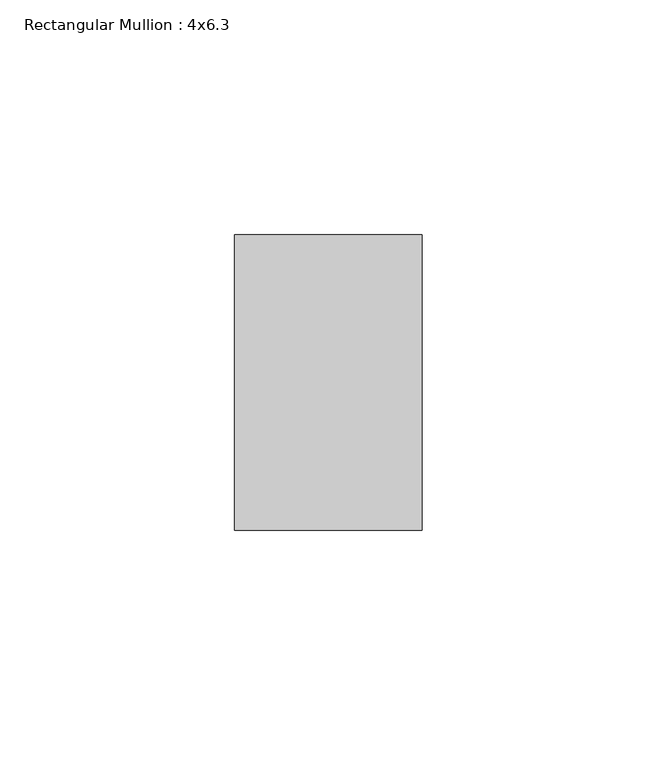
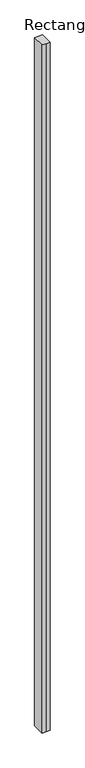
"""IFC4 building model written with IfcOpenShell, lengths in millimetres: member geometry, Rectangular Mullion : 4x6.3."""

from ifc_helpers import new_model, si_unit, frame, origin, place, context, project, spatial, polyline, outline, extrude, source, transform, mapped, element, save


def rectangular_mullion_4x6_3_787addec(model_context):
    return source(origin(), model_context, "Body", "SweptSolid", [
        extrude(outline(polyline([(-20.0, 20.0), (-20.0, 83.0), (20.0, 83.0), (20.0, 20.0), (0.0, 20.0), (-20.0, 20.0)])), frame((0.0, 0.0, -3598.4443129), z_axis=(0.0, 0.0, 1.0), x_axis=(1.0, 0.0, 0.0)), (0.0, 0.0, 1.0), 3598.4443129),
    ])


if __name__ == "__main__":
    model = new_model("IFC4")
    model_context = context("Model", 3, world=origin())
    ifc_project = project(units=[si_unit("LENGTHUNIT", "METRE", prefix="MILLI")], contexts=[model_context])
    site = spatial("IfcSite", under=ifc_project)
    building = spatial("IfcBuilding", under=site)
    placement = place(None, origin())
    rectangular_mullion_4x6_3_shape = rectangular_mullion_4x6_3_787addec(model_context)
    element("IfcMember", 1, ObjectType="Rectangular Mullion : 4x6.3", at=placement, inside=building, context=model_context, shape_type="MappedRepresentation", body=[
        mapped(rectangular_mullion_4x6_3_shape, transform((0.0, 0.0, 0.0), x_axis=(1.0, 0.0, 0.0), y_axis=(0.0, 1.0, 0.0), z_axis=(0.0, 0.0, 1.0))),
    ])
    save(model, "model.ifc")
